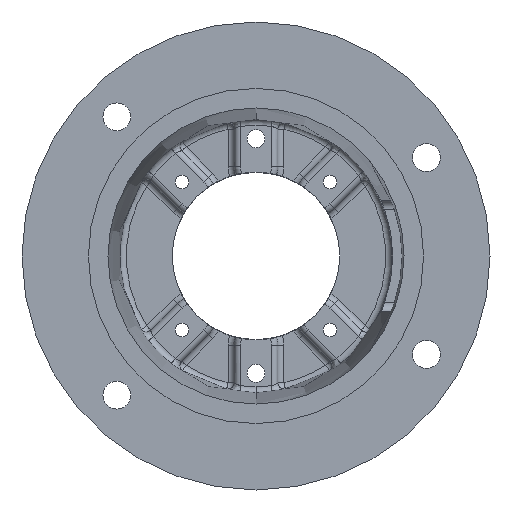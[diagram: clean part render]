
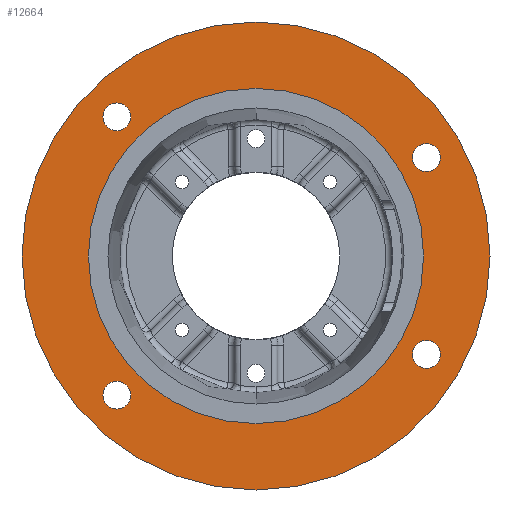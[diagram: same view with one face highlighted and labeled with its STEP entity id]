
A CAD part, front view. The second image highlights one B-rep face of the part: STEP entity #12664.
In plain terms, the highlighted planar face has unit normal (0, -1, 0).
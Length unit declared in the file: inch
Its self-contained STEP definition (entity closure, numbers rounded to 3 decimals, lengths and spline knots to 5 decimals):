
#32 = CARTESIAN_POINT ( 'NONE',  ( 4.00537, 0., -2.3125 ) ) ;
#39 = FACE_BOUND ( 'NONE', #3161, .T. ) ;
#140 = CARTESIAN_POINT ( 'NONE',  ( 0., 0., 0. ) ) ;
#156 = ORIENTED_EDGE ( 'NONE', *, *, #8431, .F. ) ;
#231 = VERTEX_POINT ( 'NONE', #1770 ) ;
#281 = DIRECTION ( 'NONE',  ( 0., 0., -1. ) ) ;
#401 = DIRECTION ( 'NONE',  ( 0., -1., 0. ) ) ;
#430 = AXIS2_PLACEMENT_3D ( 'NONE', #11227, #4736, #12313 ) ;
#803 = CIRCLE ( 'NONE', #13264, 0.32812 ) ;
#817 = EDGE_CURVE ( 'NONE', #13741, #911, #1413, .T. ) ;
#911 = VERTEX_POINT ( 'NONE', #1469 ) ;
#963 = CARTESIAN_POINT ( 'NONE',  ( -3.27037, 0., -2.94224 ) ) ;
#988 = CARTESIAN_POINT ( 'NONE',  ( -3.27037, 0., 3.59849 ) ) ;
#1175 = ORIENTED_EDGE ( 'NONE', *, *, #2539, .F. ) ;
#1203 = DIRECTION ( 'NONE',  ( 0., 0., -1. ) ) ;
#1323 = DIRECTION ( 'NONE',  ( 0., 0., -1. ) ) ;
#1366 = ORIENTED_EDGE ( 'NONE', *, *, #9891, .F. ) ;
#1413 = CIRCLE ( 'NONE', #10927, 5.5 ) ;
#1469 = CARTESIAN_POINT ( 'NONE',  ( 0., 0., -5.5 ) ) ;
#1642 = AXIS2_PLACEMENT_3D ( 'NONE', #10268, #3767, #11357 ) ;
#1770 = CARTESIAN_POINT ( 'NONE',  ( -3.27037, 0., 2.94224 ) ) ;
#2047 = ORIENTED_EDGE ( 'NONE', *, *, #12388, .F. ) ;
#2083 = ORIENTED_EDGE ( 'NONE', *, *, #9767, .F. ) ;
#2157 = ORIENTED_EDGE ( 'NONE', *, *, #817, .T. ) ;
#2398 = EDGE_CURVE ( 'NONE', #6665, #13546, #14031, .T. ) ;
#2539 = EDGE_CURVE ( 'NONE', #3546, #9137, #7568, .T. ) ;
#2815 = EDGE_LOOP ( 'NONE', ( #156, #3027 ) ) ;
#3027 = ORIENTED_EDGE ( 'NONE', *, *, #7632, .F. ) ;
#3067 = FACE_BOUND ( 'NONE', #14051, .T. ) ;
#3161 = EDGE_LOOP ( 'NONE', ( #1175, #8043 ) ) ;
#3363 = CARTESIAN_POINT ( 'NONE',  ( -3.27037, 0., 3.27037 ) ) ;
#3474 = CARTESIAN_POINT ( 'NONE',  ( 0., 0., 0. ) ) ;
#3521 = DIRECTION ( 'NONE',  ( 0., -1., 0. ) ) ;
#3541 = VERTEX_POINT ( 'NONE', #13537 ) ;
#3546 = VERTEX_POINT ( 'NONE', #13895 ) ;
#3557 = EDGE_CURVE ( 'NONE', #13546, #6665, #6016, .T. ) ;
#3576 = DIRECTION ( 'NONE',  ( 0., 0., -1. ) ) ;
#3671 = CARTESIAN_POINT ( 'NONE',  ( 4.00537, 0., 2.3125 ) ) ;
#3767 = DIRECTION ( 'NONE',  ( 0., 1., 0. ) ) ;
#3905 = CARTESIAN_POINT ( 'NONE',  ( -3.27037, 0., 3.27037 ) ) ;
#4122 = CARTESIAN_POINT ( 'NONE',  ( 4.00537, 0., 2.64062 ) ) ;
#4354 = DIRECTION ( 'NONE',  ( 0., -1., 0. ) ) ;
#4469 = DIRECTION ( 'NONE',  ( 0., 0., -1. ) ) ;
#4687 = CARTESIAN_POINT ( 'NONE',  ( -3.27037, 0., -3.27037 ) ) ;
#4710 = AXIS2_PLACEMENT_3D ( 'NONE', #11823, #11781, #11736 ) ;
#4729 = CIRCLE ( 'NONE', #6718, 0.32812 ) ;
#4736 = DIRECTION ( 'NONE',  ( 0., -1., 0. ) ) ;
#5000 = DIRECTION ( 'NONE',  ( 0., 0., -1. ) ) ;
#5076 = VERTEX_POINT ( 'NONE', #9532 ) ;
#5383 = EDGE_LOOP ( 'NONE', ( #6742, #10596 ) ) ;
#5551 = VERTEX_POINT ( 'NONE', #988 ) ;
#5626 = CIRCLE ( 'NONE', #7201, 0.32812 ) ;
#5762 = DIRECTION ( 'NONE',  ( 0., 0., -1. ) ) ;
#5942 = FACE_BOUND ( 'NONE', #5383, .T. ) ;
#6016 = CIRCLE ( 'NONE', #4710, 0.32812 ) ;
#6201 = DIRECTION ( 'NONE',  ( 0., -1., 0. ) ) ;
#6665 = VERTEX_POINT ( 'NONE', #11100 ) ;
#6718 = AXIS2_PLACEMENT_3D ( 'NONE', #32, #7759, #1203 ) ;
#6742 = ORIENTED_EDGE ( 'NONE', *, *, #2398, .F. ) ;
#6790 = ORIENTED_EDGE ( 'NONE', *, *, #12849, .F. ) ;
#6983 = CIRCLE ( 'NONE', #11818, 3.9385 ) ;
#7076 = CARTESIAN_POINT ( 'NONE',  ( 0., 0., 0. ) ) ;
#7133 = DIRECTION ( 'NONE',  ( 0., 0., -1. ) ) ;
#7160 = CIRCLE ( 'NONE', #13296, 0.32812 ) ;
#7201 = AXIS2_PLACEMENT_3D ( 'NONE', #12711, #6201, #13832 ) ;
#7244 = DIRECTION ( 'NONE',  ( 0., -1., 0. ) ) ;
#7268 = AXIS2_PLACEMENT_3D ( 'NONE', #3474, #3521, #3576 ) ;
#7568 = CIRCLE ( 'NONE', #7268, 3.9385 ) ;
#7632 = EDGE_CURVE ( 'NONE', #3541, #13609, #4729, .T. ) ;
#7719 = CARTESIAN_POINT ( 'NONE',  ( 0., 0., 5.5 ) ) ;
#7759 = DIRECTION ( 'NONE',  ( 0., -1., 0. ) ) ;
#7874 = DIRECTION ( 'NONE',  ( 0., -1., 0. ) ) ;
#7901 = EDGE_LOOP ( 'NONE', ( #12709, #2157 ) ) ;
#8043 = ORIENTED_EDGE ( 'NONE', *, *, #9721, .F. ) ;
#8431 = EDGE_CURVE ( 'NONE', #13609, #3541, #9825, .T. ) ;
#8849 = FACE_BOUND ( 'NONE', #11817, .T. ) ;
#9137 = VERTEX_POINT ( 'NONE', #13122 ) ;
#9183 = PLANE ( 'NONE',  #1642 ) ;
#9532 = CARTESIAN_POINT ( 'NONE',  ( -3.27037, 0., -3.59849 ) ) ;
#9721 = EDGE_CURVE ( 'NONE', #9137, #3546, #6983, .T. ) ;
#9767 = EDGE_CURVE ( 'NONE', #5076, #11773, #803, .T. ) ;
#9825 = CIRCLE ( 'NONE', #430, 0.32812 ) ;
#9891 = EDGE_CURVE ( 'NONE', #11773, #5076, #5626, .T. ) ;
#10268 = CARTESIAN_POINT ( 'NONE',  ( -5.5, 0., 0. ) ) ;
#10596 = ORIENTED_EDGE ( 'NONE', *, *, #3557, .F. ) ;
#10765 = CARTESIAN_POINT ( 'NONE',  ( 4.00537, 0., -2.64063 ) ) ;
#10853 = CARTESIAN_POINT ( 'NONE',  ( 0., 0., 0. ) ) ;
#10927 = AXIS2_PLACEMENT_3D ( 'NONE', #7076, #7244, #7133 ) ;
#10929 = AXIS2_PLACEMENT_3D ( 'NONE', #3905, #11492, #5000 ) ;
#10948 = DIRECTION ( 'NONE',  ( 0., -1., 0. ) ) ;
#11100 = CARTESIAN_POINT ( 'NONE',  ( 4.00537, 0., 1.98437 ) ) ;
#11227 = CARTESIAN_POINT ( 'NONE',  ( 4.00537, 0., -2.3125 ) ) ;
#11357 = DIRECTION ( 'NONE',  ( 0., 0., 1. ) ) ;
#11394 = FACE_OUTER_BOUND ( 'NONE', #7901, .T. ) ;
#11492 = DIRECTION ( 'NONE',  ( 0., -1., 0. ) ) ;
#11730 = FACE_BOUND ( 'NONE', #2815, .T. ) ;
#11736 = DIRECTION ( 'NONE',  ( 0., 0., -1. ) ) ;
#11773 = VERTEX_POINT ( 'NONE', #963 ) ;
#11781 = DIRECTION ( 'NONE',  ( 0., -1., 0. ) ) ;
#11817 = EDGE_LOOP ( 'NONE', ( #2083, #1366 ) ) ;
#11818 = AXIS2_PLACEMENT_3D ( 'NONE', #140, #7874, #1323 ) ;
#11823 = CARTESIAN_POINT ( 'NONE',  ( 4.00537, 0., 2.3125 ) ) ;
#11946 = DIRECTION ( 'NONE',  ( 0., 0., -1. ) ) ;
#12269 = DIRECTION ( 'NONE',  ( 0., -1., 0. ) ) ;
#12313 = DIRECTION ( 'NONE',  ( 0., 0., -1. ) ) ;
#12388 = EDGE_CURVE ( 'NONE', #5551, #231, #13798, .T. ) ;
#12664 = ADVANCED_FACE ( 'NONE', ( #5942, #11730, #8849, #3067, #39, #11394 ), #9183, .F. ) ;
#12709 = ORIENTED_EDGE ( 'NONE', *, *, #13658, .T. ) ;
#12711 = CARTESIAN_POINT ( 'NONE',  ( -3.27037, 0., -3.27037 ) ) ;
#12849 = EDGE_CURVE ( 'NONE', #231, #5551, #7160, .T. ) ;
#13122 = CARTESIAN_POINT ( 'NONE',  ( 0., 0., 3.9385 ) ) ;
#13228 = CIRCLE ( 'NONE', #13412, 5.5 ) ;
#13264 = AXIS2_PLACEMENT_3D ( 'NONE', #4687, #12269, #5762 ) ;
#13296 = AXIS2_PLACEMENT_3D ( 'NONE', #3363, #10948, #4469 ) ;
#13339 = AXIS2_PLACEMENT_3D ( 'NONE', #3671, #401, #281 ) ;
#13412 = AXIS2_PLACEMENT_3D ( 'NONE', #10853, #4354, #11946 ) ;
#13537 = CARTESIAN_POINT ( 'NONE',  ( 4.00537, 0., -1.98438 ) ) ;
#13546 = VERTEX_POINT ( 'NONE', #4122 ) ;
#13609 = VERTEX_POINT ( 'NONE', #10765 ) ;
#13658 = EDGE_CURVE ( 'NONE', #911, #13741, #13228, .T. ) ;
#13741 = VERTEX_POINT ( 'NONE', #7719 ) ;
#13798 = CIRCLE ( 'NONE', #10929, 0.32812 ) ;
#13832 = DIRECTION ( 'NONE',  ( 0., 0., -1. ) ) ;
#13895 = CARTESIAN_POINT ( 'NONE',  ( 0., 0., -3.9385 ) ) ;
#14031 = CIRCLE ( 'NONE', #13339, 0.32812 ) ;
#14051 = EDGE_LOOP ( 'NONE', ( #6790, #2047 ) ) ;
